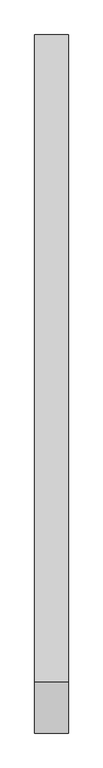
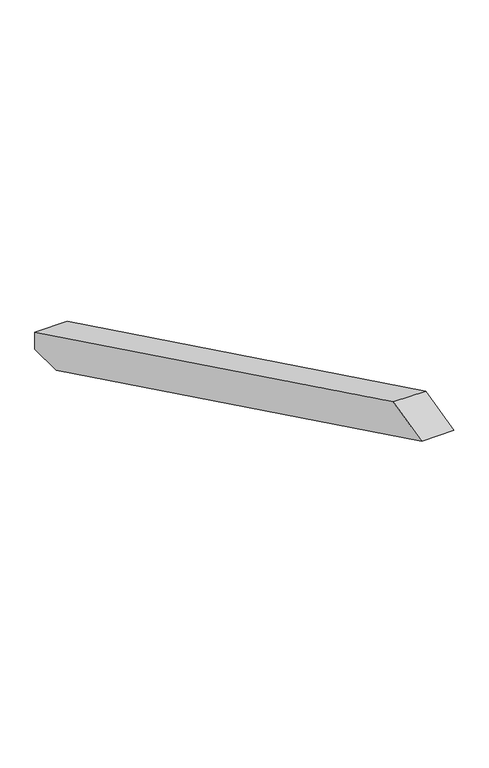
"""IFC4 building model written with IfcOpenShell, lengths in millimetres: proxy geometry, Modelos genéricos 134 : Modelos genéricos 16."""

from ifc_helpers import new_model, si_unit, frame, origin, place, context, project, spatial, polyline, outline, extrude, source, transform, mapped, element, save


def generic_models_062fe46e(model_context):
    return source(origin(), model_context, "Body", "SweptSolid", [
        extrude(outline(polyline([(723.3927505, 3756.8218964), (1878.6238165, 3193.3780582), (1878.6238165, 3160.0), (1810.1886555, 3160.0), (632.8220197, 3734.240077), (723.3927505, 3756.8218964)])), frame((9223.4472467, 0.0, 0.0), z_axis=(1.0, 0.0, 0.0), x_axis=(0.0, 1.0, 0.0)), (0.0, 0.0, 1.0), 60.0),
    ])


if __name__ == "__main__":
    model = new_model("IFC4")
    model_context = context("Model", 3, world=origin())
    ifc_project = project(units=[si_unit("LENGTHUNIT", "METRE", prefix="MILLI")], contexts=[model_context])
    site = spatial("IfcSite", under=ifc_project)
    building = spatial("IfcBuilding", under=site)
    placement = place(None, origin())
    generic_models_shape = generic_models_062fe46e(model_context)
    element("IfcBuildingElementProxy", 1, Name="Modelos genéricos 134 : Modelos genéricos 16", ObjectType="Modelos genéricos 134 : Modelos genéricos 16", at=placement, inside=building, context=model_context, shape_type="MappedRepresentation", body=[
        mapped(generic_models_shape, transform((0.0, 0.0, 0.0), x_axis=(1.0, 0.0, 0.0), y_axis=(0.0, 1.0, 0.0), z_axis=(0.0, 0.0, 1.0))),
    ])
    save(model, "model.ifc")
